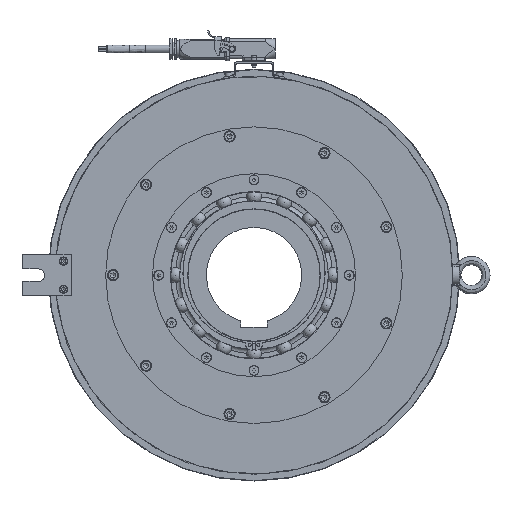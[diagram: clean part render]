
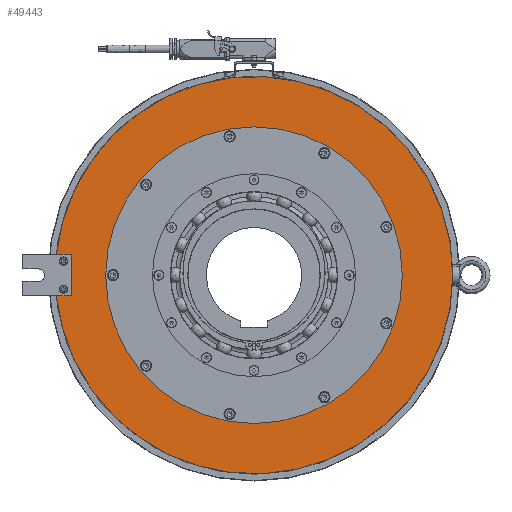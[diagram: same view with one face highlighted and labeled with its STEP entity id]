
A CAD part, left-side view. The second image highlights one B-rep face of the part: STEP entity #49443.
In plain terms, the highlighted planar face has unit normal (-1, 0, 0).
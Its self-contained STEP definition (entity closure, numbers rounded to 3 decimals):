
#1372=FACE_BOUND('',#7695,.T.);
#1973=PLANE('',#53943);
#4789=FACE_OUTER_BOUND('',#7694,.T.);
#7694=EDGE_LOOP('',(#38662,#38663,#38664,#38665,#38666,#38667,#38668));
#7695=EDGE_LOOP('',(#38669,#38670));
#11052=CIRCLE('',#53920,239.8);
#11055=CIRCLE('',#53923,239.8);
#11069=CIRCLE('',#53944,2.);
#11070=CIRCLE('',#53945,2.);
#11071=CIRCLE('',#53946,179.);
#11072=CIRCLE('',#53947,179.);
#12823=LINE('',#92724,#16215);
#12824=LINE('',#92726,#16216);
#12825=LINE('',#92730,#16217);
#16215=VECTOR('',#63468,10.);
#16216=VECTOR('',#63469,10.);
#16217=VECTOR('',#63472,10.);
#21381=VERTEX_POINT('',#92592);
#21382=VERTEX_POINT('',#92594);
#21383=VERTEX_POINT('',#92596);
#21405=VERTEX_POINT('',#92723);
#21406=VERTEX_POINT('',#92725);
#21407=VERTEX_POINT('',#92727);
#21408=VERTEX_POINT('',#92729);
#21409=VERTEX_POINT('',#92732);
#21410=VERTEX_POINT('',#92733);
#27505=EDGE_CURVE('',#21383,#21382,#11052,.T.);
#27514=EDGE_CURVE('',#21381,#21383,#11055,.T.);
#27533=EDGE_CURVE('',#21405,#21381,#12823,.T.);
#27534=EDGE_CURVE('',#21382,#21406,#12824,.T.);
#27535=EDGE_CURVE('',#21406,#21407,#11069,.T.);
#27536=EDGE_CURVE('',#21407,#21408,#12825,.T.);
#27537=EDGE_CURVE('',#21408,#21405,#11070,.T.);
#27538=EDGE_CURVE('',#21409,#21410,#11071,.T.);
#27539=EDGE_CURVE('',#21410,#21409,#11072,.T.);
#38662=ORIENTED_EDGE('',*,*,#27533,.T.);
#38663=ORIENTED_EDGE('',*,*,#27514,.T.);
#38664=ORIENTED_EDGE('',*,*,#27505,.T.);
#38665=ORIENTED_EDGE('',*,*,#27534,.T.);
#38666=ORIENTED_EDGE('',*,*,#27535,.T.);
#38667=ORIENTED_EDGE('',*,*,#27536,.T.);
#38668=ORIENTED_EDGE('',*,*,#27537,.T.);
#38669=ORIENTED_EDGE('',*,*,#27538,.T.);
#38670=ORIENTED_EDGE('',*,*,#27539,.T.);
#49443=ADVANCED_FACE('',(#4789,#1372),#1973,.T.);
#53920=AXIS2_PLACEMENT_3D('',#92597,#63413,#63414);
#53923=AXIS2_PLACEMENT_3D('',#92647,#63423,#63424);
#53943=AXIS2_PLACEMENT_3D('',#92722,#63466,#63467);
#53944=AXIS2_PLACEMENT_3D('',#92728,#63470,#63471);
#53945=AXIS2_PLACEMENT_3D('',#92731,#63473,#63474);
#53946=AXIS2_PLACEMENT_3D('',#92734,#63475,#63476);
#53947=AXIS2_PLACEMENT_3D('',#92735,#63477,#63478);
#63413=DIRECTION('center_axis',(-1.,0.,0.));
#63414=DIRECTION('ref_axis',(0.,1.,0.));
#63423=DIRECTION('center_axis',(-1.,0.,0.));
#63424=DIRECTION('ref_axis',(0.,1.,0.));
#63466=DIRECTION('center_axis',(-1.,0.,0.));
#63467=DIRECTION('ref_axis',(0.,0.,
1.));
#63468=DIRECTION('',(0.,1.,0.));
#63469=DIRECTION('',(0.,-1.,0.));
#63470=DIRECTION('center_axis',(1.,0.,0.));
#63471=DIRECTION('ref_axis',(0.,-0.707,0.707));
#63472=DIRECTION('',(0.,0.,-1.));
#63473=DIRECTION('center_axis',(1.,0.,0.));
#63474=DIRECTION('ref_axis',(0.,-0.707,-0.707));
#63475=DIRECTION('center_axis',(1.,0.,0.));
#63476=DIRECTION('ref_axis',(0.,1.,0.));
#63477=DIRECTION('center_axis',(1.,0.,0.));
#63478=DIRECTION('ref_axis',(0.,1.,0.));
#92592=CARTESIAN_POINT('',(-112.,238.493,-25.));
#92594=CARTESIAN_POINT('',(-112.,238.493,25.));
#92596=CARTESIAN_POINT('',(-112.,-239.8,0.));
#92597=CARTESIAN_POINT('Origin',(-112.,0.,0.));
#92647=CARTESIAN_POINT('Origin',(-112.,0.,0.));
#92722=CARTESIAN_POINT('Origin',(-112.,201.15,0.));
#92723=CARTESIAN_POINT('',(-112.,222.,-25.));
#92724=CARTESIAN_POINT('',(-112.,210.575,-25.));
#92725=CARTESIAN_POINT('',(-112.,222.,25.));
#92726=CARTESIAN_POINT('',(-112.,240.575,25.));
#92727=CARTESIAN_POINT('',(-112.,220.,23.));
#92728=CARTESIAN_POINT('Origin',(-112.,222.,23.));
#92729=CARTESIAN_POINT('',(-112.,220.,-23.));
#92730=CARTESIAN_POINT('',(-112.,220.,12.5));
#92731=CARTESIAN_POINT('Origin',(-112.,222.,-23.));
#92732=CARTESIAN_POINT('',(-112.,179.,0.));
#92733=CARTESIAN_POINT('',(-112.,-179.,0.));
#92734=CARTESIAN_POINT('Origin',(-112.,0.,0.));
#92735=CARTESIAN_POINT('Origin',(-112.,0.,0.));
